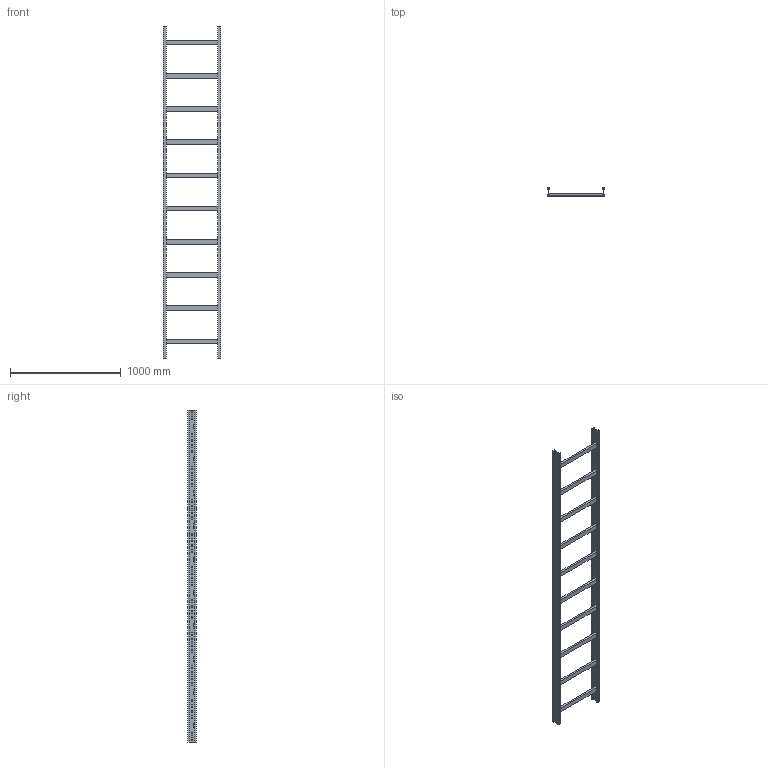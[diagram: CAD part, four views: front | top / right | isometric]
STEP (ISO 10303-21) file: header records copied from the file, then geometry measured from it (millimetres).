
FILE_DESCRIPTION (( 'STEP AP214' ), '1' );
FILE_NAME ('01S3C500.step', '2025-02-21T16:21:03', ( '' ), ( '' ), 'SwSTEP 2.0', 'SolidWorks 2023', '' );
FILE_SCHEMA (( 'AUTOMOTIVE_DESIGN' ));
Length unit declared in the file: millimetre
Products named in the file (3): TRAVERSINO_500; 01S3C500; LONGH.H75
Assembly tree (12 placements, depth 2):
  01S3C500
    LONGH.H75  x2
    TRAVERSINO_500  x10
Bounding box: 518 x 75 x 3000 mm (x, y, z)
Volume: 6955200 mm3; surface area: 2073701 mm2
Topology: 12 solids, 12 shells, 408 faces, 1152 edges, 768 vertices
Faces by surface type: plane 408
Entity records: 6180 total; most frequent: CARTESIAN_POINT 1075, ORIENTED_EDGE 1056, DIRECTION 918, VECTOR 528, LINE 528, EDGE_CURVE 528, VERTEX_POINT 352, EDGE_LOOP 260
